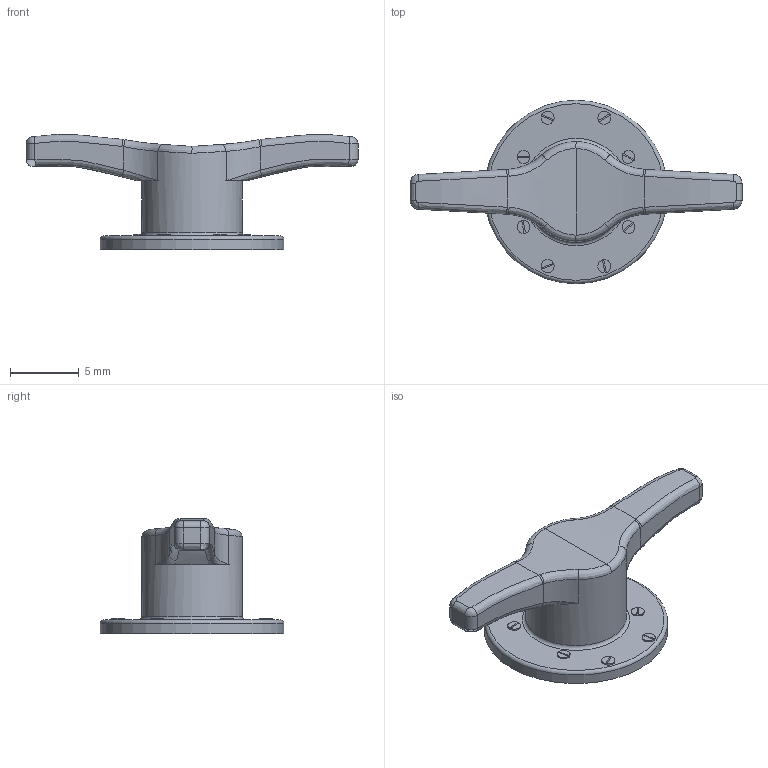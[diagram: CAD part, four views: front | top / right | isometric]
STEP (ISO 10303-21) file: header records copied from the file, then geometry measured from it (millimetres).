
FILE_DESCRIPTION(/* description */ ('','CAx-IF Rec.Pracs.---Representation and Presentation of Product Manufacturing Information (PMI)---4.0---2014-10-13'),/* implementation_level */ '2;1');
FILE_NAME(/* name */ '20elcomooringbitt.step',/* time_stamp */ '2025-03-08T12:17:49+11:00',/* author */ (''),/* organization */ (''),/* preprocessor_version */ 'ST-DEVELOPER v20',/* originating_system */ 'Autodesk Translation Framework v13.20.0.188',/* authorisation */ '');
FILE_SCHEMA (('AP242_MANAGED_MODEL_BASED_3D_ENGINEERING_MIM_LF { 1 0 10303 442 1 1 4 }'));
Length unit declared in the file: millimetre
Products named in the file (2): Elco Mooring Bitt; Component1
Assembly tree (1 placements, depth 2):
  Elco Mooring Bitt
    Component1
Bounding box: 24.13 x 13.34 x 8.37 mm (x, y, z)
Volume: 438.9 mm3; surface area: 712.3 mm2
Topology: 1 solids, 1 shells, 138 faces, 334 edges, 208 vertices
Faces by surface type: plane 51, cylinder 43, bspline 42, torus 2
Full cylindrical faces by diameter (mm): 4.8 x1, 7.303 x1, 13.335 x1
Entity records: 5587 total; most frequent: CARTESIAN_POINT 2603, ORIENTED_EDGE 668, DIRECTION 510, EDGE_CURVE 334, VERTEX_POINT 208, AXIS2_PLACEMENT_3D 195, EDGE_LOOP 148, FACE_OUTER_BOUND 138
